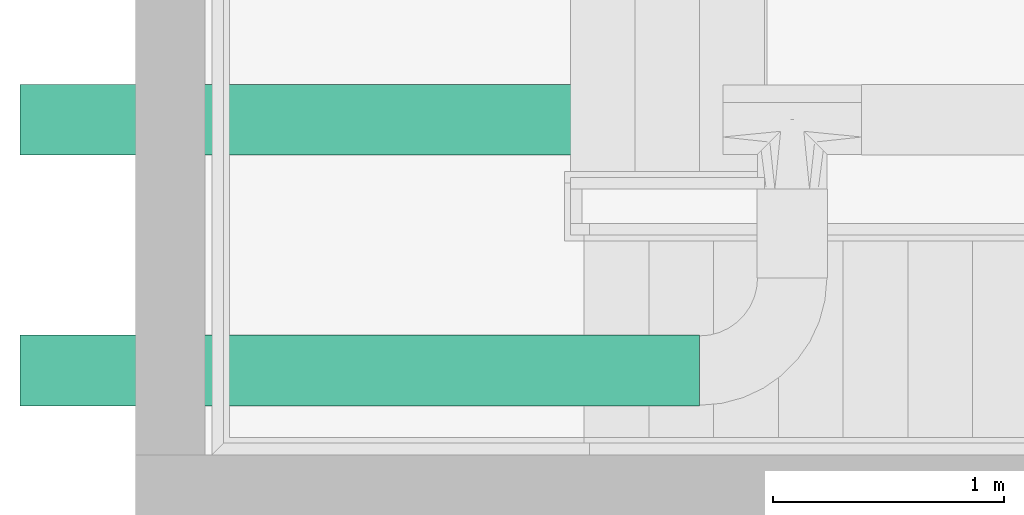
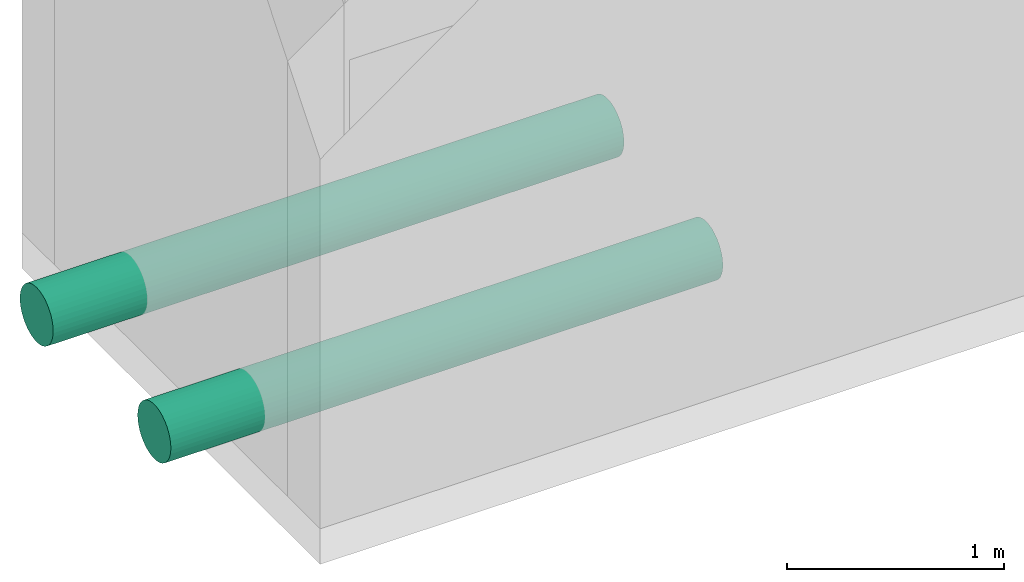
# One storey, part 3 of 12: 2 flow segments.
"""IFC2X3 building model written with IfcOpenShell, lengths in millimetres."""

from ifc_helpers import new_model, entity, si_unit, converted_unit, direction, frame, frame_2d, origin, origin_2d_with_axis, place, context, subcontext, project, spatial, circle, extrude, material, type_object, element, save


model = new_model("IFC2X3")

# Units and contexts
model_context = context("Model", 3, precision=0.01, world=origin(), true_north=direction((6.123031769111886e-17, 1.0)))
body_context = subcontext(model_context, "Body", "Model", "MODEL_VIEW")
ifc_project = project(units=[si_unit("LENGTHUNIT", "METRE", prefix="MILLI"), converted_unit("PLANEANGLEUNIT", "DEGREE", entity("IfcPlaneAngleMeasure", 0.017453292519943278), si_unit("PLANEANGLEUNIT", "RADIAN"), dimensions=[0, 0, 0, 0, 0, 0, 0]), si_unit("AREAUNIT", "SQUARE_METRE")], contexts=[model_context])

# Site, building, storey
site_placement = place(None, frame((7776.576483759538, 118.3519876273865, 0.0)))
site = spatial("IfcSite", under=ifc_project, at=site_placement, Name="Default", CompositionType="ELEMENT")
building_placement = place(site_placement, origin())
building = spatial("IfcBuilding", under=site, at=building_placement, Name="Bygning (endres i Project Information)", CompositionType="ELEMENT")
storey_placement = place(building_placement, frame((0.0, 0.0, 11000.0)))
storey = spatial("IfcBuildingStorey", under=building, at=storey_placement, Name="Plan U2 - Arbeid", CompositionType="ELEMENT", Elevation=10999.999999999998)

# Flow segments
ifc_material = material(Name="SS 2343 Rustfritt stål, prosessrør, generisk")
pipe_segment_type = type_object("IfcPipeSegmentType", Name="Pipe Types:AISI 304L Rustfritt", PredefinedType="NOTDEFINED", material=ifc_material)
flow_segment_1_placement = place(storey_placement, origin())
element("IfcFlowSegment", 1, at=flow_segment_1_placement, inside=storey, type_object=pipe_segment_type, Name="Pipe Types:AISI 304L Rustfritt", ObjectType="Pipe Types:AISI 304L Rustfritt", context=body_context, shape_type="SweptSolid", body=[
    extrude(circle(Radius=153.0, at=frame_2d((4.808007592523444e-33, -2.1657342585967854e-12), x_axis=(1.0, 0.0))), frame((12374.001374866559, 33597.757305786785, 320.2003523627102), z_axis=(1.0, 1.4355119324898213e-06, 0.0), x_axis=(-1.4355119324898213e-06, 1.0, 0.0)), (0.0, 0.0, 1.0), 3039.9981577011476),
])
flow_segment_2_placement = place(storey_placement, origin())
element("IfcFlowSegment", 2, at=flow_segment_2_placement, inside=storey, type_object=pipe_segment_type, Name="Pipe Types:AISI 304L Rustfritt", ObjectType="Pipe Types:AISI 304L Rustfritt", context=body_context, shape_type="SweptSolid", body=[
    extrude(circle(Radius=153.0, at=origin_2d_with_axis()), frame((12374.001374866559, 32512.533268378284, 320.1999999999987), z_axis=(1.0, -5.011649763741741e-07, 0.0), x_axis=(5.011649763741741e-07, 1.0, 0.0)), (0.0, 0.0, 1.0), 2940.000342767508),
])

save(model, "model.ifc")
